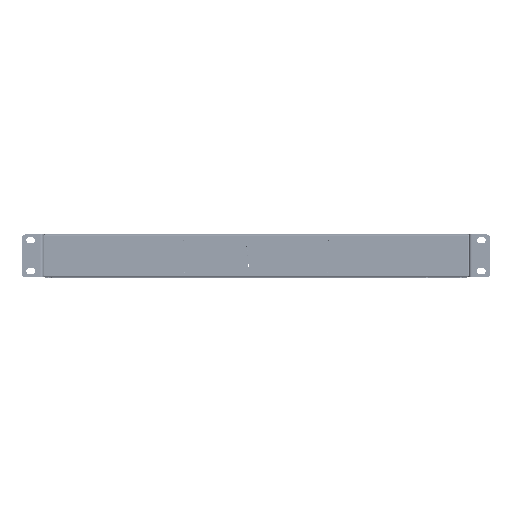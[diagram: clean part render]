
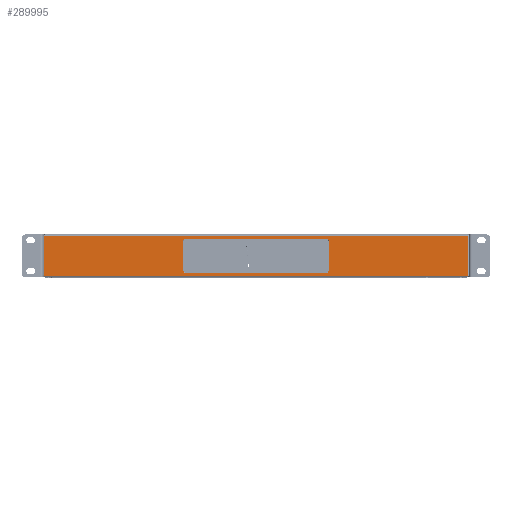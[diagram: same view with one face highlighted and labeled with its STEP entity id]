
A CAD part, top view. The second image highlights one B-rep face of the part: STEP entity #289995.
In plain terms, the highlighted planar face has unit normal (0, 0, 1).
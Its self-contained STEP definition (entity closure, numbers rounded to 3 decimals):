
#5038 = VECTOR ( 'NONE', #346936, 1000. ) ;
#5252 = CIRCLE ( 'NONE', #210767, 3.3 ) ;
#5338 = CARTESIAN_POINT ( 'NONE',  ( 496.685, 1031.703, 1604.855 ) ) ;
#5721 = VERTEX_POINT ( 'NONE', #373843 ) ;
#12955 = EDGE_CURVE ( 'NONE', #410952, #208539, #381721, .T. ) ;
#14675 = EDGE_CURVE ( 'NONE', #129322, #31441, #67800, .T. ) ;
#21361 = CARTESIAN_POINT ( 'NONE',  ( 495.685, 991.903, 1604.855 ) ) ;
#21659 = CARTESIAN_POINT ( 'NONE',  ( 786.685, 1029.603, 1604.855 ) ) ;
#26421 = EDGE_CURVE ( 'NONE', #145238, #447478, #383239, .T. ) ;
#26658 = DIRECTION ( 'NONE',  ( 0., 0., 1. ) ) ;
#29791 = AXIS2_PLACEMENT_3D ( 'NONE', #348921, #443165, #305470 ) ;
#31441 = VERTEX_POINT ( 'NONE', #84683 ) ;
#39151 = EDGE_CURVE ( 'NONE', #308665, #338466, #279822, .T. ) ;
#43062 = ORIENTED_EDGE ( 'NONE', *, *, #350956, .T. ) ;
#51803 = VERTEX_POINT ( 'NONE', #369657 ) ;
#52270 = DIRECTION ( 'NONE',  ( 0., 1., 0. ) ) ;
#58470 = EDGE_CURVE ( 'NONE', #51803, #410952, #188049, .T. ) ;
#59392 = CARTESIAN_POINT ( 'NONE',  ( 642.685, 997.303, 1604.855 ) ) ;
#61109 = DIRECTION ( 'NONE',  ( -1., 0., 0. ) ) ;
#67800 = CIRCLE ( 'NONE', #82187, 1. ) ;
#68027 = VERTEX_POINT ( 'NONE', #21659 ) ;
#70131 = CIRCLE ( 'NONE', #84515, 1. ) ;
#74196 = AXIS2_PLACEMENT_3D ( 'NONE', #238454, #162836, #263843 ) ;
#75595 = CARTESIAN_POINT ( 'NONE',  ( 932.685, 1032.703, 1604.855 ) ) ;
#82187 = AXIS2_PLACEMENT_3D ( 'NONE', #382346, #26658, #61109 ) ;
#84515 = AXIS2_PLACEMENT_3D ( 'NONE', #168854, #448801, #233151 ) ;
#84683 = CARTESIAN_POINT ( 'NONE',  ( 496.685, 990.903, 1604.855 ) ) ;
#85566 = DIRECTION ( 'NONE',  ( 0., 0., -1. ) ) ;
#90528 = AXIS2_PLACEMENT_3D ( 'NONE', #5338, #322122, #432191 ) ;
#111166 = ORIENTED_EDGE ( 'NONE', *, *, #249412, .T. ) ;
#111722 = LINE ( 'NONE', #21361, #267763 ) ;
#114891 = VERTEX_POINT ( 'NONE', #385452 ) ;
#120105 = CARTESIAN_POINT ( 'NONE',  ( 495.685, 991.903, 1604.855 ) ) ;
#120960 = VECTOR ( 'NONE', #350895, 1000. ) ;
#129055 = DIRECTION ( 'NONE',  ( -1., 0., 0. ) ) ;
#129322 = VERTEX_POINT ( 'NONE', #120105 ) ;
#131290 = ORIENTED_EDGE ( 'NONE', *, *, #330320, .T. ) ;
#133259 = ORIENTED_EDGE ( 'NONE', *, *, #304303, .T. ) ;
#139282 = EDGE_LOOP ( 'NONE', ( #385069, #348138, #443090, #111166, #205709, #131290, #258106, #408182 ) ) ;
#139393 = CARTESIAN_POINT ( 'NONE',  ( 933.685, 1031.703, 1604.855 ) ) ;
#140559 = CARTESIAN_POINT ( 'NONE',  ( 639.385, 997.303, 1604.855 ) ) ;
#140619 = VERTEX_POINT ( 'NONE', #316802 ) ;
#145238 = VERTEX_POINT ( 'NONE', #139393 ) ;
#148696 = EDGE_LOOP ( 'NONE', ( #298190, #153314, #200667, #402916, #321970, #133259, #411863, #43062 ) ) ;
#150331 = LINE ( 'NONE', #320229, #427054 ) ;
#150693 = DIRECTION ( 'NONE',  ( 0., 0., 1. ) ) ;
#153314 = ORIENTED_EDGE ( 'NONE', *, *, #169575, .T. ) ;
#154284 = CARTESIAN_POINT ( 'NONE',  ( 789.985, 997.303, 1604.855 ) ) ;
#155205 = LINE ( 'NONE', #301961, #178919 ) ;
#160136 = LINE ( 'NONE', #265666, #283219 ) ;
#162836 = DIRECTION ( 'NONE',  ( 0., 0., -1. ) ) ;
#168854 = CARTESIAN_POINT ( 'NONE',  ( 932.685, 991.903, 1604.855 ) ) ;
#169575 = EDGE_CURVE ( 'NONE', #31441, #114891, #150331, .T. ) ;
#169698 = CARTESIAN_POINT ( 'NONE',  ( 932.685, 991.903, 1604.855 ) ) ;
#178919 = VECTOR ( 'NONE', #400727, 1000. ) ;
#181138 = CARTESIAN_POINT ( 'NONE',  ( 786.685, 994.003, 1604.855 ) ) ;
#185140 = DIRECTION ( 'NONE',  ( -1., 0., 0. ) ) ;
#188049 = LINE ( 'NONE', #401419, #233539 ) ;
#197360 = DIRECTION ( 'NONE',  ( -1., 0., 0. ) ) ;
#200667 = ORIENTED_EDGE ( 'NONE', *, *, #409130, .T. ) ;
#201832 = FACE_BOUND ( 'NONE', #139282, .T. ) ;
#205709 = ORIENTED_EDGE ( 'NONE', *, *, #380947, .T. ) ;
#208539 = VERTEX_POINT ( 'NONE', #181138 ) ;
#210767 = AXIS2_PLACEMENT_3D ( 'NONE', #400058, #85566, #129055 ) ;
#228802 = AXIS2_PLACEMENT_3D ( 'NONE', #169698, #277488, #378520 ) ;
#233151 = DIRECTION ( 'NONE',  ( -1., 0., 0. ) ) ;
#233539 = VECTOR ( 'NONE', #327994, 1000. ) ;
#233845 = DIRECTION ( 'NONE',  ( 0., 0., -1. ) ) ;
#238379 = DIRECTION ( 'NONE',  ( -1., 0., 0. ) ) ;
#238454 = CARTESIAN_POINT ( 'NONE',  ( 642.685, 1026.303, 1604.855 ) ) ;
#243113 = CARTESIAN_POINT ( 'NONE',  ( 639.385, 1026.303, 1604.855 ) ) ;
#249412 = EDGE_CURVE ( 'NONE', #338466, #369240, #375003, .T. ) ;
#251739 = EDGE_CURVE ( 'NONE', #261455, #140619, #259344, .T. ) ;
#258106 = ORIENTED_EDGE ( 'NONE', *, *, #58470, .T. ) ;
#259344 = CIRCLE ( 'NONE', #90528, 1. ) ;
#261455 = VERTEX_POINT ( 'NONE', #370343 ) ;
#263023 = CARTESIAN_POINT ( 'NONE',  ( 932.685, 1031.703, 1604.855 ) ) ;
#263843 = DIRECTION ( 'NONE',  ( -1., 0., 0. ) ) ;
#265666 = CARTESIAN_POINT ( 'NONE',  ( 933.685, 1031.703, 1604.855 ) ) ;
#267763 = VECTOR ( 'NONE', #436933, 1000. ) ;
#275174 = EDGE_CURVE ( 'NONE', #208539, #5721, #155205, .T. ) ;
#277488 = DIRECTION ( 'NONE',  ( 0., 0., 1. ) ) ;
#279822 = LINE ( 'NONE', #243113, #120960 ) ;
#282623 = LINE ( 'NONE', #422574, #5038 ) ;
#283219 = VECTOR ( 'NONE', #52270, 1000. ) ;
#289995 = ADVANCED_FACE ( 'NONE', ( #201832, #344057 ), #307396, .T. ) ;
#298190 = ORIENTED_EDGE ( 'NONE', *, *, #14675, .T. ) ;
#301961 = CARTESIAN_POINT ( 'NONE',  ( 642.685, 994.003, 1604.855 ) ) ;
#302385 = AXIS2_PLACEMENT_3D ( 'NONE', #263023, #150693, #185140 ) ;
#304303 = EDGE_CURVE ( 'NONE', #447478, #261455, #449696, .T. ) ;
#305470 = DIRECTION ( 'NONE',  ( -1., 0., 0. ) ) ;
#307396 = PLANE ( 'NONE',  #228802 ) ;
#308665 = VERTEX_POINT ( 'NONE', #140559 ) ;
#316802 = CARTESIAN_POINT ( 'NONE',  ( 495.685, 1031.703, 1604.855 ) ) ;
#320229 = CARTESIAN_POINT ( 'NONE',  ( 932.685, 990.903, 1604.855 ) ) ;
#321970 = ORIENTED_EDGE ( 'NONE', *, *, #26421, .T. ) ;
#322122 = DIRECTION ( 'NONE',  ( 0., 0., 1. ) ) ;
#327994 = DIRECTION ( 'NONE',  ( 0., -1., 0. ) ) ;
#329467 = EDGE_CURVE ( 'NONE', #381487, #145238, #160136, .T. ) ;
#330320 = EDGE_CURVE ( 'NONE', #68027, #51803, #5252, .T. ) ;
#338466 = VERTEX_POINT ( 'NONE', #355776 ) ;
#344057 = FACE_OUTER_BOUND ( 'NONE', #148696, .T. ) ;
#346936 = DIRECTION ( 'NONE',  ( 1., 0., 0. ) ) ;
#348138 = ORIENTED_EDGE ( 'NONE', *, *, #436511, .T. ) ;
#348921 = CARTESIAN_POINT ( 'NONE',  ( 786.685, 997.303, 1604.855 ) ) ;
#350895 = DIRECTION ( 'NONE',  ( 0., 1., 0. ) ) ;
#350956 = EDGE_CURVE ( 'NONE', #140619, #129322, #111722, .T. ) ;
#355776 = CARTESIAN_POINT ( 'NONE',  ( 639.385, 1026.303, 1604.855 ) ) ;
#356922 = DIRECTION ( 'NONE',  ( 1., 0., 0. ) ) ;
#369240 = VERTEX_POINT ( 'NONE', #449738 ) ;
#369657 = CARTESIAN_POINT ( 'NONE',  ( 789.985, 1026.303, 1604.855 ) ) ;
#370343 = CARTESIAN_POINT ( 'NONE',  ( 496.685, 1032.703, 1604.855 ) ) ;
#373843 = CARTESIAN_POINT ( 'NONE',  ( 642.685, 994.003, 1604.855 ) ) ;
#375003 = CIRCLE ( 'NONE', #74196, 3.3 ) ;
#376285 = CARTESIAN_POINT ( 'NONE',  ( 496.685, 1032.703, 1604.855 ) ) ;
#378520 = DIRECTION ( 'NONE',  ( -1., 0., 0. ) ) ;
#380947 = EDGE_CURVE ( 'NONE', #369240, #68027, #282623, .T. ) ;
#381487 = VERTEX_POINT ( 'NONE', #410707 ) ;
#381721 = CIRCLE ( 'NONE', #29791, 3.3 ) ;
#382346 = CARTESIAN_POINT ( 'NONE',  ( 496.685, 991.903, 1604.855 ) ) ;
#383239 = CIRCLE ( 'NONE', #302385, 1. ) ;
#385069 = ORIENTED_EDGE ( 'NONE', *, *, #275174, .T. ) ;
#385452 = CARTESIAN_POINT ( 'NONE',  ( 932.685, 990.903, 1604.855 ) ) ;
#400058 = CARTESIAN_POINT ( 'NONE',  ( 786.685, 1026.303, 1604.855 ) ) ;
#400727 = DIRECTION ( 'NONE',  ( -1., 0., 0. ) ) ;
#401419 = CARTESIAN_POINT ( 'NONE',  ( 789.985, 997.303, 1604.855 ) ) ;
#402916 = ORIENTED_EDGE ( 'NONE', *, *, #329467, .T. ) ;
#408107 = VECTOR ( 'NONE', #197360, 1000. ) ;
#408182 = ORIENTED_EDGE ( 'NONE', *, *, #12955, .T. ) ;
#409130 = EDGE_CURVE ( 'NONE', #114891, #381487, #70131, .T. ) ;
#410707 = CARTESIAN_POINT ( 'NONE',  ( 933.685, 991.903, 1604.855 ) ) ;
#410952 = VERTEX_POINT ( 'NONE', #154284 ) ;
#411863 = ORIENTED_EDGE ( 'NONE', *, *, #251739, .T. ) ;
#416664 = CIRCLE ( 'NONE', #424227, 3.3 ) ;
#422574 = CARTESIAN_POINT ( 'NONE',  ( 786.685, 1029.603, 1604.855 ) ) ;
#424227 = AXIS2_PLACEMENT_3D ( 'NONE', #59392, #233845, #238379 ) ;
#427054 = VECTOR ( 'NONE', #356922, 1000. ) ;
#432191 = DIRECTION ( 'NONE',  ( -1., 0., 0. ) ) ;
#436511 = EDGE_CURVE ( 'NONE', #5721, #308665, #416664, .T. ) ;
#436933 = DIRECTION ( 'NONE',  ( 0., -1., 0. ) ) ;
#443090 = ORIENTED_EDGE ( 'NONE', *, *, #39151, .T. ) ;
#443165 = DIRECTION ( 'NONE',  ( 0., 0., -1. ) ) ;
#447478 = VERTEX_POINT ( 'NONE', #75595 ) ;
#448801 = DIRECTION ( 'NONE',  ( 0., 0., 1. ) ) ;
#449696 = LINE ( 'NONE', #376285, #408107 ) ;
#449738 = CARTESIAN_POINT ( 'NONE',  ( 642.685, 1029.603, 1604.855 ) ) ;
